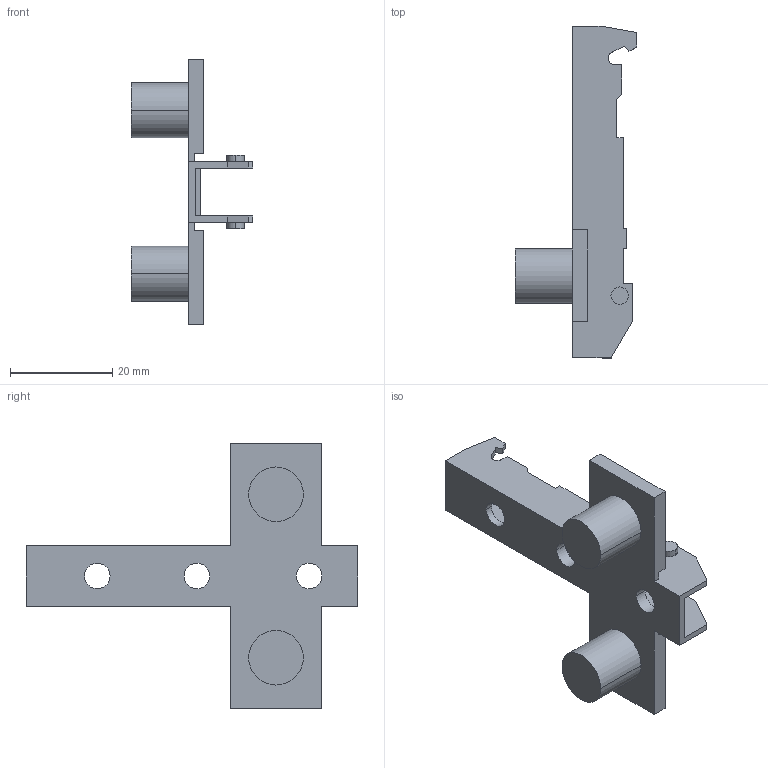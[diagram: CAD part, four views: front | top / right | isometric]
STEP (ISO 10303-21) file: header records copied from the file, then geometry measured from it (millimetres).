
FILE_DESCRIPTION (( 'STEP AP214' ), '1' );
FILE_NAME ('Eco Kreuzmontageplatte LR28_32_Dübel 10mm_H02.step', '2010-11-18T10:06:46', ( 'grass' ), ( '' ), 'SwSTEP 2.0', 'SolidWorks 2010', '' );
FILE_SCHEMA (( 'AUTOMOTIVE_DESIGN' ));
Length unit declared in the file: millimetre
Products named in the file (1): Eco Kreuzmontageplatte LR28_32_Dübel 10mm_H02
Bounding box: 23.7 x 65 x 52 mm (x, y, z)
Volume: 6431.3 mm3; surface area: 6651.2 mm2
Topology: 1 solids, 1 shells, 98 faces, 262 edges, 172 vertices
Faces by surface type: plane 74, cylinder 20, cone 4
Entity records: 3072 total; most frequent: CARTESIAN_POINT 533, ORIENTED_EDGE 524, DIRECTION 504, EDGE_CURVE 262, LINE 218, VECTOR 218, VERTEX_POINT 172, AXIS2_PLACEMENT_3D 143
